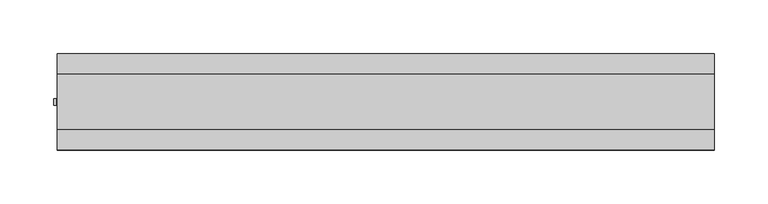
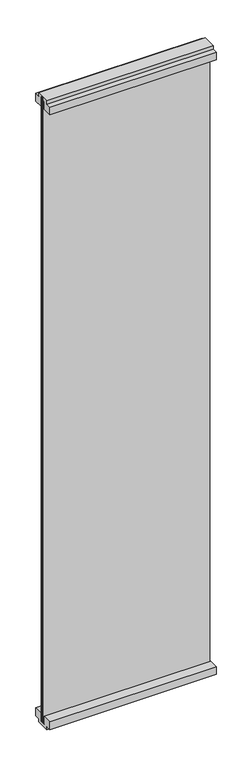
"""IFC4 building model written with IfcOpenShell, lengths in millimetres: furniture geometry, Allsteel - Aspect - Panel - 1-Way LH (11-25-24) : Allsteel - Aspect - Panel - 1-Way LH (11-25-24)."""

from ifc_helpers import new_model, si_unit, frame, origin, place, context, project, spatial, polyline, outline, extrude, source, transform, mapped, element, save


def furniture_0f5c7596(model_context):
    return source(origin(), model_context, "Body", "SweptSolid", [
        extrude(outline(polyline([(609.6, -3.175), (0.0, -3.175), (0.0, 3.175), (609.6, 3.175), (609.6, -3.175)])), frame((0.0, 0.0, 12.7), z_axis=(0.0, 0.0, 1.0), x_axis=(1.0, 0.0, 0.0)), (0.0, 0.0, 1.0), 2413.0),
        extrude(outline(polyline([(-25.4, 2438.4), (25.4, 2438.4), (25.4, 2425.7), (44.45, 2425.7), (44.45, 2395.5375), (9.525, 2395.5375), (9.525, 2425.7), (-9.525, 2425.7), (-9.525, 2395.5375), (-44.45, 2395.5375), (-44.45, 2425.7), (-25.4, 2425.7), (-25.4, 2438.4)])), frame((0.0, 0.0, 0.0), z_axis=(1.0, 0.0, 0.0), x_axis=(0.0, 1.0, 0.0)), (0.0, 0.0, 1.0), 609.6),
        extrude(outline(polyline([(25.4, 0.0), (-25.4, 0.0), (-25.4, 12.7), (-44.45, 12.7), (-44.45, 42.8625), (-9.525, 42.8625), (-9.525, 12.7), (9.525, 12.7), (9.525, 42.8625), (44.45, 42.8625), (44.45, 12.7), (25.4, 12.7), (25.4, 0.0)])), frame((0.0, 0.0, 0.0), z_axis=(1.0, 0.0, 0.0), x_axis=(0.0, 1.0, 0.0)), (0.0, 0.0, 1.0), 609.6),
        extrude(outline(polyline([(-1.2847077, 2.9978967), (-1.2847077, -3.3521033), (-3.3167077, -3.3521033), (-3.3167077, 2.9978967), (-1.2847077, 2.9978967)])), frame((0.0, 0.0, 22.225), z_axis=(0.0, 0.0, 1.0), x_axis=(1.0, 0.0, 0.0)), (0.0, 0.0, 1.0), 2416.175),
    ])


if __name__ == "__main__":
    model = new_model("IFC4")
    model_context = context("Model", 3, world=origin())
    ifc_project = project(units=[si_unit("LENGTHUNIT", "METRE", prefix="MILLI")], contexts=[model_context])
    site = spatial("IfcSite", under=ifc_project)
    building = spatial("IfcBuilding", under=site)
    placement = place(None, origin())
    furniture_shape = furniture_0f5c7596(model_context)
    element("IfcFurniture", 1, ObjectType="Allsteel - Aspect - Panel - 1-Way LH (11-25-24) : Allsteel - Aspect - Panel - 1-Way LH (11-25-24)", at=placement, inside=building, context=model_context, shape_type="MappedRepresentation", body=[
        mapped(furniture_shape, transform((0.0, 0.0, 0.0), x_axis=(1.0, 0.0, 0.0), y_axis=(0.0, 1.0, 0.0), z_axis=(0.0, 0.0, 1.0))),
    ])
    save(model, "model.ifc")
